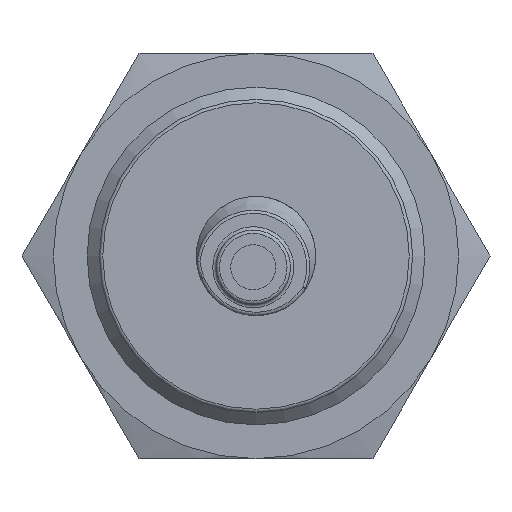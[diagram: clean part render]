
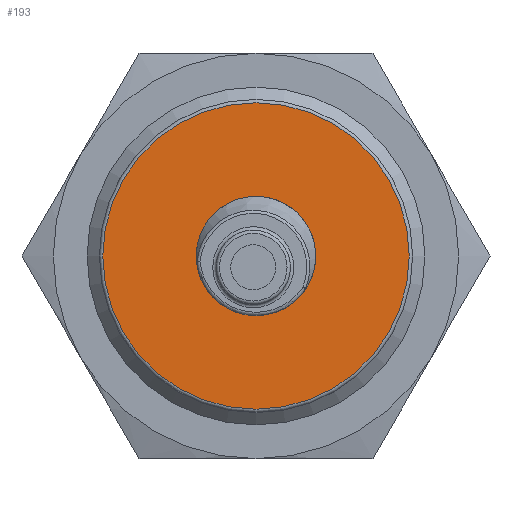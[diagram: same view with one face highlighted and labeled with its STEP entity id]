
A CAD part, left-side view. The second image highlights one B-rep face of the part: STEP entity #193.
In plain terms, the highlighted planar face has unit normal (-1, 0, 0).
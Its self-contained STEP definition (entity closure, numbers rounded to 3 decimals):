
#193 = ADVANCED_FACE( '', ( #257, #258 ), #259, .F. );
#257 = FACE_OUTER_BOUND( '', #364, .T. );
#258 = FACE_BOUND( '', #365, .T. );
#259 = PLANE( '', #366 );
#364 = EDGE_LOOP( '', ( #507 ) );
#365 = EDGE_LOOP( '', ( #508 ) );
#366 = AXIS2_PLACEMENT_3D( '', #509, #510, #511 );
#507 = ORIENTED_EDGE( '', *, *, #725, .F. );
#508 = ORIENTED_EDGE( '', *, *, #720, .T. );
#509 = CARTESIAN_POINT( '', ( 8., 5.3, 0. ) );
#510 = DIRECTION( '', ( 1., 0., 0. ) );
#511 = DIRECTION( '', ( 0., 0., -1. ) );
#720 = EDGE_CURVE( '', #799, #799, #800, .T. );
#725 = EDGE_CURVE( '', #809, #809, #810, .T. );
#799 = VERTEX_POINT( '', #983 );
#800 = CIRCLE( '', #984, 5.3 );
#809 = VERTEX_POINT( '', #993 );
#810 = CIRCLE( '', #994, 13.61 );
#983 = CARTESIAN_POINT( '', ( 8., 0., -5.3 ) );
#984 = AXIS2_PLACEMENT_3D( '', #1228, #1229, #1230 );
#993 = CARTESIAN_POINT( '', ( 8., 0., -13.61 ) );
#994 = AXIS2_PLACEMENT_3D( '', #1243, #1244, #1245 );
#1228 = CARTESIAN_POINT( '', ( 8., 0., 0. ) );
#1229 = DIRECTION( '', ( 1., 0., 0. ) );
#1230 = DIRECTION( '', ( 0., 0., -1. ) );
#1243 = CARTESIAN_POINT( '', ( 8., 0., 0. ) );
#1244 = DIRECTION( '', ( 1., 0., 0. ) );
#1245 = DIRECTION( '', ( 0., 0., -1. ) );
